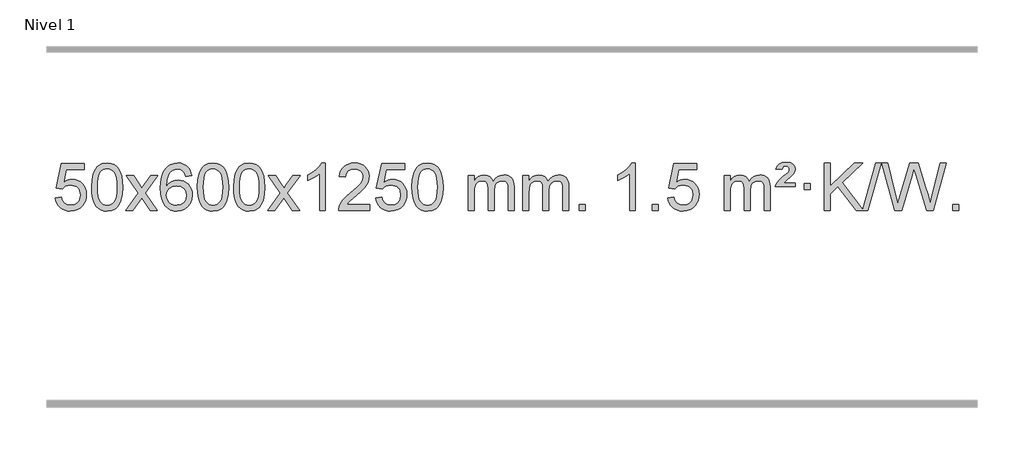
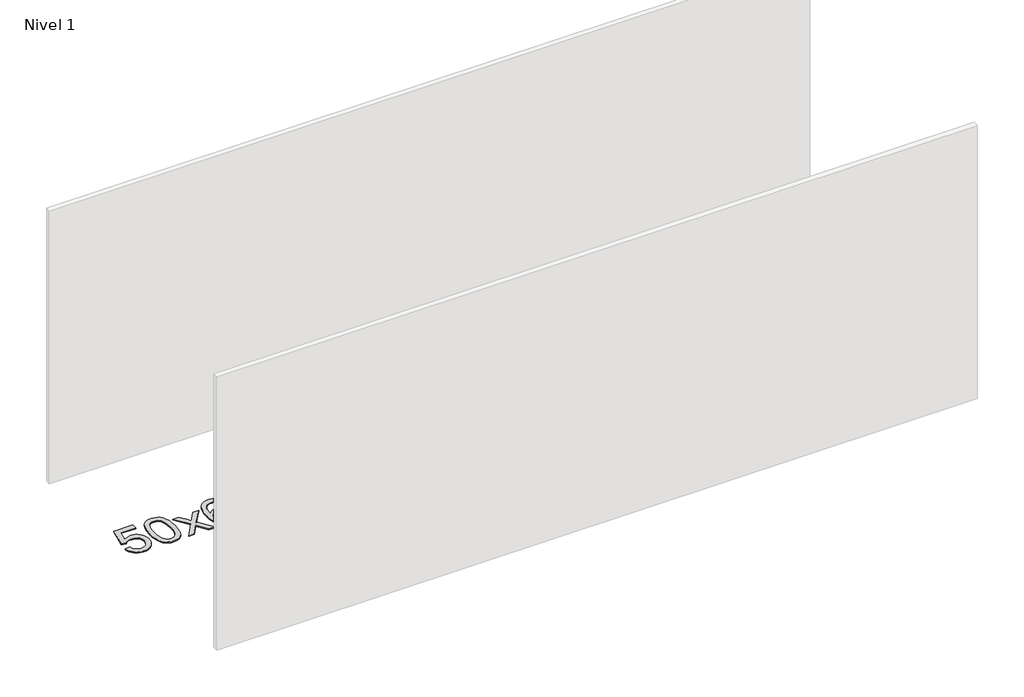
# One storey, part 7 of 8: 1 proxy.
"""IFC4 building model written with IfcOpenShell, lengths in millimetres."""

import ifcopenshell
import ifcopenshell.guid

model = None  # the IFC model being written
_history = None  # IfcOwnerHistory: only IFC2X3 demands one
_inside = {}  # id of a spatial element -> (the spatial element, [elements in it])
_under = {}  # id of a project, library or spatial element -> (it, [spatial elements below it])
_declared = {}  # id of a project -> (the project, [libraries it declares])
_typed = {}  # id of a type object -> (the type object, [elements of that type])
_made_of = {}  # id of a material, layer set ... -> (it, [elements and type objects made of it])


def new_model(schema):
    """Start an empty IFC model of exactly this schema.

    Asked for "IFC4X3", IfcOpenShell would pick the latest addendum, in which some entities
    have other attributes; the version numbers below select the first issue.
    IFC2X3 requires an IfcOwnerHistory on every rooted entity: one is made here for all.
    """
    global model, _history
    if schema == "IFC4X3":
        model = ifcopenshell.file(schema_version=(4, 3, 0, 0))
    else:
        model = ifcopenshell.file(schema=schema)
    _inside.clear()
    _under.clear()
    _declared.clear()
    _typed.clear()
    _made_of.clear()
    _history = None
    if model.schema == "IFC2X3":
        org = make("IfcOrganization", Name="unknown")
        user = make(
            "IfcPersonAndOrganization",
            ThePerson=make("IfcPerson", FamilyName="unknown"),
            TheOrganization=org,
        )
        app = make(
            "IfcApplication",
            ApplicationDeveloper=org,
            Version="unknown",
            ApplicationFullName="unknown",
            ApplicationIdentifier="unknown",
        )
        _history = make(
            "IfcOwnerHistory",
            OwningUser=user,
            OwningApplication=app,
            ChangeAction="ADDED",
            CreationDate=0,
        )
    return model


def make(cls, **values):
    """One entity of the class cls with the attributes given. An attribute that is None is left unset."""
    return model.create_entity(
        cls, **{name: value for name, value in values.items() if value is not None}
    )


def rooted(cls, **values):
    """An entity with a GlobalId (a new one), such as an element, a storey or a relation."""
    return make(cls, GlobalId=ifcopenshell.guid.new(), OwnerHistory=_history, **values)


def si_unit(unit_type, name, prefix=None):
    """IfcSIUnit, for example si_unit("LENGTHUNIT", "METRE", prefix="MILLI")."""
    return make("IfcSIUnit", UnitType=unit_type, Prefix=prefix, Name=name)


def assignment(units):
    """IfcUnitAssignment: the units of a project."""
    return None if units is None else make("IfcUnitAssignment", Units=units)


def point(xyz):
    """IfcCartesianPoint."""
    return None if xyz is None else make("IfcCartesianPoint", Coordinates=xyz)


def direction(xyz):
    """IfcDirection."""
    return None if xyz is None else make("IfcDirection", DirectionRatios=xyz)


def frame(location, z_axis=None, x_axis=None):
    """IfcAxis2Placement3D, a coordinate frame: its origin and axes. An axis left out is left unset."""
    return make(
        "IfcAxis2Placement3D",
        Location=point(location),
        Axis=direction(z_axis),
        RefDirection=direction(x_axis),
    )


def origin():
    """The frame at (0, 0, 0) with its axes left unset."""
    return frame((0.0, 0.0, 0.0))


def origin_with_axes():
    """The frame at (0, 0, 0) with the z axis (0, 0, 1) and the x axis (1, 0, 0) written out."""
    return frame((0.0, 0.0, 0.0), z_axis=(0.0, 0.0, 1.0), x_axis=(1.0, 0.0, 0.0))


def place(relative_to, where):
    """IfcLocalPlacement: puts the frame where relative to a parent placement (None: the world)."""
    return make(
        "IfcLocalPlacement", PlacementRelTo=relative_to, RelativePlacement=where
    )


def context(
    kind, dimensions, precision=None, world=None, true_north=None, identifier=None
):
    """IfcGeometricRepresentationContext, for example the 3D "Model" context."""
    return make(
        "IfcGeometricRepresentationContext",
        ContextIdentifier=identifier,
        ContextType=kind,
        CoordinateSpaceDimension=dimensions,
        Precision=precision,
        WorldCoordinateSystem=world,
        TrueNorth=true_north,
    )


def project(units=None, contexts=None):
    """IfcProject with its units and contexts."""
    return rooted(
        "IfcProject",
        Name="project",
        RepresentationContexts=contexts,
        UnitsInContext=assignment(units),
    )


def spatial(cls, under=None, at=None, **own):
    """A site, building, storey or space (cls), placed at a placement, below another one or the project."""
    s = rooted(cls, ObjectPlacement=at, **own)
    if under is not None:
        _under.setdefault(under.id(), (under, []))[1].append(s)
    return s


def polyline(points):
    """IfcPolyline through the points."""
    return make("IfcPolyline", Points=[point(p) for p in points])


def outline(outer, holes=None, kind="AREA"):
    """IfcArbitraryClosedProfileDef: a profile drawn as a closed curve; with holes, ...WithVoids."""
    if holes is None:
        return make("IfcArbitraryClosedProfileDef", ProfileType=kind, OuterCurve=outer)
    return make(
        "IfcArbitraryProfileDefWithVoids",
        ProfileType=kind,
        OuterCurve=outer,
        InnerCurves=holes,
    )


def extrude(swept, where, along, depth):
    """IfcExtrudedAreaSolid: the profile swept, set in the frame where, extruded along a direction by depth."""
    return make(
        "IfcExtrudedAreaSolid",
        SweptArea=swept,
        Position=where,
        ExtrudedDirection=direction(along),
        Depth=depth,
    )


def shape(context_of_items, identifier, shape_type, items):
    """IfcShapeRepresentation: the items that make up one representation, for example the "Body"."""
    return make(
        "IfcShapeRepresentation",
        ContextOfItems=context_of_items,
        RepresentationIdentifier=identifier,
        RepresentationType=shape_type,
        Items=items,
    )


def made_of(thing, what):
    """Note that an element or type object is made of a material, layer set ...; save() writes the relation."""
    if what is not None:
        _made_of.setdefault(what.id(), (what, []))[1].append(thing)
    return thing


def element(
    cls,
    number,
    at=None,
    inside=None,
    cuts=None,
    type_object=None,
    material=None,
    context=None,
    identifier="Body",
    shape_type=None,
    held_by="IfcProductDefinitionShape",
    body=None,
    shapes=None,
    **own,
):
    """One element of the class cls, such as IfcWall. Its Tag is "e" and its number.

    at: its placement. inside: the storey or other place that contains it. cuts: it is an
    opening in that element (IfcRelVoidsElement). A single representation is given by context,
    identifier, shape_type and body (its items); several are given by shapes. held_by: the class
    of the entity that holds the representations. save() writes the other relations.
    """
    e = rooted(cls, Tag="e%d" % number, ObjectPlacement=at, **own)
    if body is not None:
        shapes = [shape(context, identifier, shape_type, body)]
    if shapes is not None:
        e.Representation = make(held_by, Representations=shapes)
    if inside is not None:
        _inside.setdefault(inside.id(), (inside, []))[1].append(e)
    if cuts is not None:
        rooted(
            "IfcRelVoidsElement", RelatingBuildingElement=cuts, RelatedOpeningElement=e
        )
    if type_object is not None:
        _typed.setdefault(type_object.id(), (type_object, []))[1].append(e)
    return made_of(e, material)


def aggregate(whole, parts):
    """IfcRelAggregates: a whole, such as a stair, and the parts it consists of."""
    return rooted("IfcRelAggregates", RelatingObject=whole, RelatedObjects=parts)


def save(model, path):
    """Write the relations noted so far, then the file.

    IfcRelAggregates (storeys below a building ...), IfcRelContainedInSpatialStructure (elements
    in a storey), IfcRelDefinesByType, IfcRelAssociatesMaterial and IfcRelDeclares: one each for
    every whole, place, type object, material and project.
    """
    for whole, parts in _under.values():
        aggregate(whole, parts)
    for where, things in _inside.values():
        rooted(
            "IfcRelContainedInSpatialStructure",
            RelatedElements=things,
            RelatingStructure=where,
        )
    for kind, things in _typed.values():
        rooted("IfcRelDefinesByType", RelatedObjects=things, RelatingType=kind)
    for what, things in _made_of.values():
        rooted("IfcRelAssociatesMaterial", RelatedObjects=things, RelatingMaterial=what)
    for by, libraries in _declared.values():
        rooted("IfcRelDeclares", RelatingContext=by, RelatedDefinitions=libraries)
    model.write(path)


model = new_model("IFC4")

# Units and contexts
model_context = context("Model", 3, world=origin())
ifc_project = project(units=[si_unit("LENGTHUNIT", "METRE", prefix="MILLI")], contexts=[model_context])

# Site, building, storey
site = spatial("IfcSite", under=ifc_project)
building = spatial("IfcBuilding", under=site)
storey = spatial("IfcBuildingStorey", under=building, Name="Nivel 1", Elevation=0.0)

# Proxy
placement = place(None, origin())
element("IfcBuildingElementProxy", 1, Name="Texto de modelo 1", ObjectType="Texto de modelo 1", at=placement, inside=storey, context=model_context, shape_type="SweptSolid", body=[
    extrude(outline(polyline([(-6456.1697105, -284.8446235), (-6405.9415554, -278.5661041), (-6396.71998, -308.7201649), (-6380.6312741, -330.3148381), (-6357.749014, -343.3010725), (-6328.1467761, -347.6298173), (-6309.0169124, -346.1245668), (-6292.1433915, -341.6088153), (-6277.5262136, -334.0825628), (-6265.1653786, -323.5458094), (-6255.3367979, -310.519721), (-6248.3163832, -295.5254641), (-6242.7000514, -259.6324441), (-6247.9607639, -225.8363514), (-6254.5366546, -211.9181493), (-6263.7429015, -199.9865099), (-6275.6101615, -190.4154467), (-6290.1690915, -183.5789729), (-6327.3619612, -178.1097939), (-6351.728012, -180.2925604), (-6371.4587497, -186.8408599), (-6387.2163618, -196.8717757), (-6399.663036, -209.5023908), (-6449.8911911, -203.2238715), (-6405.9415554, 3.9672682), (-6211.3074545, 3.9672682), (-6211.3074545, -46.2608869), (-6365.3273831, -46.2608869), (-6386.8116916, -156.919791), (-6369.0859108, -144.2155994), (-6350.9309344, -135.1411769), (-6332.3467623, -129.6965234), (-6313.3333945, -127.8816388), (-6288.8723075, -130.1318504), (-6266.4039146, -136.882485), (-6245.9282159, -148.1335427), (-6227.4452113, -163.8850234), (-6212.144386, -183.1743027), (-6201.2152251, -205.038756), (-6194.6577285, -229.4783832), (-6192.4718963, -256.4931844), (-6194.440065, -282.5147042), (-6200.344571, -306.7213394), (-6210.1854144, -329.1130902), (-6223.9625951, -349.6899565), (-6244.833767, -370.7634634), (-6269.187555, -385.8159684), (-6297.0239593, -394.8474714), (-6328.3429799, -397.8579724), (-6354.2633321, -395.9235262), (-6377.6759554, -390.1201877), (-6398.5808498, -380.447957), (-6416.9780152, -366.9068338), (-6432.2849719, -350.1712688), (-6443.91924, -330.915712), (-6451.8808195, -309.1401636), (-6456.1697105, -284.8446235)])), origin_with_axes(), (0.0, 0.0, 1.0), 10.0),
    extrude(outline(polyline([(-6148.5222606, -193.9041943), (-6144.8311779, -129.5861588), (-6133.7579299, -78.2911459), (-6115.4128811, -39.2343407), (-6103.5548181, -24.0009605), (-6089.9063961, -11.6309284), (-6074.4216298, -2.0598651), (-6057.0545339, 4.7766086), (-6016.6733536, 10.2457876), (-5985.722215, 7.008426), (-5958.0084381, -2.7036586), (-5934.8318724, -18.5103217), (-5917.4923677, -40.0314184), (-5904.3957686, -67.0830078), (-5893.94792, -99.4811488), (-5887.1053149, -140.6226186), (-5884.8244465, -193.9041943), (-5888.478741, -257.8543477), (-5899.4416244, -309.0267333), (-5917.6763087, -348.1203266), (-5929.5067805, -363.3996922), (-5943.1460055, -375.8341036), (-5958.6491659, -385.4695462), (-5976.071444, -392.3520052), (-6016.6733536, -397.8579724), (-6044.3380796, -395.4667394), (-6068.8635459, -388.2930405), (-6090.2497526, -376.3368757), (-6108.4966996, -359.5982449), (-6126.0078825, -329.3399508), (-6138.5158704, -291.6381776), (-6146.0206631, -246.4929255), (-6148.5222606, -193.9041943)]), holes=[polyline([(-6098.2941056, -193.8060924), (-6096.8225776, -237.4706195), (-6092.4079936, -272.8148822), (-6085.0503537, -299.8388804), (-6074.7496579, -318.5426142), (-6062.290721, -331.2682656), (-6048.4583579, -340.3580165), (-6033.2525688, -345.8118671), (-6016.6733536, -347.6298173), (-6000.0941383, -345.8057357), (-5984.8883492, -340.3334911), (-5971.0559862, -331.2130833), (-5958.5970493, -318.4445124), (-5948.2963534, -299.7101217), (-5940.9387135, -272.6922549), (-5936.5241295, -237.3909118), (-5935.0526016, -193.8060924), (-5936.4750786, -151.2973278), (-5940.7425098, -116.5753989), (-5947.854895, -89.6403055), (-5957.8122343, -70.4920476), (-5970.0627048, -57.1440625), (-5984.0544833, -47.6097875), (-5999.78757, -41.8892225), (-6017.2619648, -39.9823675), (-6033.7553409, -41.6623619), (-6048.7036126, -46.7023452), (-6062.10678, -55.1023175), (-6073.9648429, -66.8622786), (-6084.6088953, -87.708925), (-6092.2117899, -115.8151094), (-6096.7735266, -151.1808319), (-6098.2941056, -193.8060924)])]), origin_with_axes(), (0.0, 0.0, 1.0), 10.0),
    extrude(outline(polyline([(-5859.7103689, -391.579453), (-5752.3869282, -243.2494325), (-5853.4318496, -96.4890419), (-5793.0011005, -96.4890419), (-5744.2444734, -167.122385), (-5721.4848406, -200.4770192), (-5701.7663657, -173.2047007), (-5646.2407099, -96.4890419), (-5585.8099608, -96.4890419), (-5691.9561791, -243.2494325), (-5589.7340354, -391.579453), (-5650.1647845, -391.579453), (-5711.6746541, -302.4048574), (-5722.9563686, -286.1199477), (-5799.2796199, -391.579453), (-5859.7103689, -391.579453)])), origin_with_axes(), (0.0, 0.0, 1.0), 10.0),
    extrude(outline(polyline([(-5300.9221437, -96.4890419), (-5351.1502988, -102.7675613), (-5359.2437027, -77.874213), (-5370.1820607, -60.8780648), (-5392.9662189, -45.2062918), (-5420.5083176, -39.9823675), (-5443.8565616, -43.0235253), (-5465.8313794, -52.1469988), (-5484.7037258, -71.3627017), (-5500.1179814, -97.8134171), (-5510.5290419, -135.227016), (-5514.3918028, -187.3313693), (-5494.2441322, -163.8237098), (-5470.0988106, -147.2567573), (-5443.3047386, -137.434308), (-5415.2108169, -134.1601582), (-5391.077758, -136.398107), (-5368.8086346, -143.1119534), (-5348.4034466, -154.3016975), (-5329.862194, -169.9673391), (-5314.4540698, -189.1769106), (-5303.4482668, -210.9984443), (-5296.844785, -235.4319401), (-5294.6436244, -262.4773982), (-5298.7884282, -298.4439945), (-5311.2228396, -331.786366), (-5330.9167891, -360.0642287), (-5356.840207, -380.8372987), (-5387.815871, -393.602804), (-5422.6665587, -397.8579724), (-5452.6090874, -395.0375437), (-5479.6514797, -386.5762579), (-5503.7937357, -372.4741147), (-5525.0358552, -352.7311143), (-5542.3539001, -326.5133908), (-5554.7239322, -292.9870783), (-5562.1459515, -252.1521768), (-5564.6199579, -204.0086864), (-5561.8731057, -150.0342663), (-5553.632549, -103.9693092), (-5539.8982878, -65.8138149), (-5520.6703222, -35.5677835), (-5499.8298072, -15.5243462), (-5475.6660915, -1.2076052), (-5448.179175, 7.3824394), (-5417.3690579, 10.2457876), (-5394.2354118, 8.4738227), (-5373.2967949, 3.1579278), (-5354.5532073, -5.7018969), (-5338.0046489, -18.1056515), (-5324.0987094, -33.6364031), (-5313.2829788, -51.8772186), (-5305.5574569, -72.8280983), (-5300.9221437, -96.4890419)]), holes=[polyline([(-5514.3918028, -261.6925832), (-5511.485535, -283.9494439), (-5502.7667318, -305.2007605), (-5489.2286743, -323.472233), (-5471.8646442, -336.7895612), (-5450.9076332, -344.9197533), (-5426.5906333, -347.6298173), (-5393.4444655, -342.0134855), (-5379.5293291, -334.9930708), (-5367.3861575, -325.1644901), (-5357.5361171, -312.9262824), (-5350.500374, -298.6769865), (-5344.8717794, -264.1451299), (-5350.4267976, -230.9989621), (-5357.3705702, -217.3781312), (-5367.0918519, -205.725469), (-5379.2718117, -196.3904634), (-5393.5916183, -189.7226022), (-5428.6507725, -184.3883133), (-5461.7478893, -189.7226022), (-5489.4248781, -205.725469), (-5500.3479076, -217.2248471), (-5508.1500716, -230.3858254), (-5512.83137, -245.2084042), (-5514.3918028, -261.6925832)])]), origin_with_axes(), (0.0, 0.0, 1.0), 10.0),
    extrude(outline(polyline([(-5250.6939887, -193.9041943), (-5247.002906, -129.5861588), (-5235.9296579, -78.2911459), (-5217.5846091, -39.2343407), (-5205.7265461, -24.0009605), (-5192.0781241, -11.6309284), (-5176.5933578, -2.0598651), (-5159.2262619, 4.7766086), (-5118.8450816, 10.2457876), (-5087.8939431, 7.008426), (-5060.1801661, -2.7036586), (-5037.0036004, -18.5103217), (-5019.6640957, -40.0314184), (-5006.5674967, -67.0830078), (-4996.119648, -99.4811488), (-4989.2770429, -140.6226186), (-4986.9961745, -193.9041943), (-4990.650469, -257.8543477), (-5001.6133525, -309.0267333), (-5019.8480367, -348.1203266), (-5031.6785085, -363.3996922), (-5045.3177335, -375.8341036), (-5060.8208939, -385.4695462), (-5078.2431721, -392.3520052), (-5118.8450816, -397.8579724), (-5146.5098076, -395.4667394), (-5171.035274, -388.2930405), (-5192.4214806, -376.3368757), (-5210.6684276, -359.5982449), (-5228.1796106, -329.3399508), (-5240.6875984, -291.6381776), (-5248.1923911, -246.4929255), (-5250.6939887, -193.9041943)]), holes=[polyline([(-5200.4658336, -193.8060924), (-5198.9943056, -237.4706195), (-5194.5797217, -272.8148822), (-5187.2220818, -299.8388804), (-5176.9213859, -318.5426142), (-5164.462449, -331.2682656), (-5150.630086, -340.3580165), (-5135.4242968, -345.8118671), (-5118.8450816, -347.6298173), (-5102.2658663, -345.8057357), (-5087.0600772, -340.3334911), (-5073.2277142, -331.2130833), (-5060.7687773, -318.4445124), (-5050.4680814, -299.7101217), (-5043.1104415, -272.6922549), (-5038.6958576, -237.3909118), (-5037.2243296, -193.8060924), (-5038.6468066, -151.2973278), (-5042.9142378, -116.5753989), (-5050.026623, -89.6403055), (-5059.9839624, -70.4920476), (-5072.2344328, -57.1440625), (-5086.2262114, -47.6097875), (-5101.959298, -41.8892225), (-5119.4336928, -39.9823675), (-5135.9270689, -41.6623619), (-5150.8753406, -46.7023452), (-5164.278508, -55.1023175), (-5176.136571, -66.8622786), (-5186.7806234, -87.708925), (-5194.3835179, -115.8151094), (-5198.9452547, -151.1808319), (-5200.4658336, -193.8060924)])]), origin_with_axes(), (0.0, 0.0, 1.0), 10.0),
    extrude(outline(polyline([(-4943.0465388, -193.9041943), (-4939.3554561, -129.5861588), (-4928.2822081, -78.2911459), (-4909.9371593, -39.2343407), (-4898.0790963, -24.0009605), (-4884.4306743, -11.6309284), (-4868.945908, -2.0598651), (-4851.5788121, 4.7766086), (-4811.1976318, 10.2457876), (-4780.2464932, 7.008426), (-4752.5327163, -2.7036586), (-4729.3561506, -18.5103217), (-4712.0166459, -40.0314184), (-4698.9200468, -67.0830078), (-4688.4721982, -99.4811488), (-4681.6295931, -140.6226186), (-4679.3487247, -193.9041943), (-4683.0030192, -257.8543477), (-4693.9659026, -309.0267333), (-4712.2005869, -348.1203266), (-4724.0310587, -363.3996922), (-4737.6702837, -375.8341036), (-4753.1734441, -385.4695462), (-4770.5957222, -392.3520052), (-4811.1976318, -397.8579724), (-4838.8623578, -395.4667394), (-4863.3878241, -388.2930405), (-4884.7740308, -376.3368757), (-4903.0209778, -359.5982449), (-4920.5321607, -329.3399508), (-4933.0401486, -291.6381776), (-4940.5449413, -246.4929255), (-4943.0465388, -193.9041943)]), holes=[polyline([(-4892.8183838, -193.8060924), (-4891.3468558, -237.4706195), (-4886.9322718, -272.8148822), (-4879.5746319, -299.8388804), (-4869.2739361, -318.5426142), (-4856.8149992, -331.2682656), (-4842.9826361, -340.3580165), (-4827.776847, -345.8118671), (-4811.1976318, -347.6298173), (-4794.6184165, -345.8057357), (-4779.4126274, -340.3334911), (-4765.5802644, -331.2130833), (-4753.1213275, -318.4445124), (-4742.8206316, -299.7101217), (-4735.4629917, -272.6922549), (-4731.0484077, -237.3909118), (-4729.5768798, -193.8060924), (-4730.9993568, -151.2973278), (-4735.266788, -116.5753989), (-4742.3791732, -89.6403055), (-4752.3365125, -70.4920476), (-4764.586983, -57.1440625), (-4778.5787615, -47.6097875), (-4794.3118482, -41.8892225), (-4811.786243, -39.9823675), (-4828.2796191, -41.6623619), (-4843.2278908, -46.7023452), (-4856.6310582, -55.1023175), (-4868.4891211, -66.8622786), (-4879.1331735, -87.708925), (-4886.7360681, -115.8151094), (-4891.2978048, -151.1808319), (-4892.8183838, -193.8060924)])]), origin_with_axes(), (0.0, 0.0, 1.0), 10.0),
    extrude(outline(polyline([(-4654.2346472, -391.579453), (-4546.9112064, -243.2494325), (-4647.9561278, -96.4890419), (-4587.5253787, -96.4890419), (-4538.7687516, -167.122385), (-4516.0091188, -200.4770192), (-4496.2906439, -173.2047007), (-4440.7649881, -96.4890419), (-4380.334239, -96.4890419), (-4486.4804574, -243.2494325), (-4384.2583136, -391.579453), (-4444.6890627, -391.579453), (-4506.1989323, -302.4048574), (-4517.4806468, -286.1199477), (-4593.8038981, -391.579453), (-4654.2346472, -391.579453)])), origin_with_axes(), (0.0, 0.0, 1.0), 10.0),
    extrude(outline(polyline([(-4164.5101352, -391.579453), (-4214.7382902, -391.579453), (-4214.7382902, -78.4382987), (-4235.707564, -95.3976587), (-4262.317695, -112.3324932), (-4315.1946004, -137.6918254), (-4315.1946004, -90.2105225), (-4275.7453878, -68.7507395), (-4241.5691504, -43.219729), (-4214.6279257, -16.0700378), (-4196.8837508, 10.2457876), (-4164.5101352, 10.2457876), (-4164.5101352, -391.579453)])), origin_with_axes(), (0.0, 0.0, 1.0), 10.0),
    extrude(outline(polyline([(-3787.7989721, -341.3512979), (-3787.7989721, -391.579453), (-4051.4967863, -391.579453), (-4050.3931403, -373.8965918), (-4046.1011837, -356.9494945), (-4033.7158232, -329.8856424), (-4015.5915035, -303.6311307), (-3989.37378, -276.1503456), (-3952.7082078, -245.4076736), (-3898.5069272, -197.2641831), (-3865.9861588, -161.7267824), (-3849.7257746, -132.884834), (-3844.3056466, -104.8277005), (-3849.4192063, -79.6768347), (-3864.7598855, -58.7688747), (-3888.3411214, -44.6789943), (-3918.1763512, -39.9823675), (-3949.5076345, -44.5686297), (-3973.8491598, -58.3274163), (-3989.557721, -80.1796068), (-3994.9901118, -109.0460807), (-4045.2182669, -102.7675613), (-4040.8987191, -76.838012), (-4033.0413728, -54.1826125), (-4021.646228, -34.8013627), (-4006.7132847, -18.6942627), (-3988.5858994, -6.0329907), (-3967.6074286, 3.010775), (-3943.7778724, 8.4370345), (-3917.0972307, 10.2457876), (-3890.1774657, 8.2346994), (-3866.2191508, 2.2014346), (-3845.2222859, -7.8540066), (-3827.1868711, -21.9316242), (-3812.7015175, -38.9890861), (-3802.3548364, -57.9840598), (-3796.1468277, -78.9165453), (-3794.0774915, -101.7865427), (-3796.3093089, -125.8092369), (-3803.0047612, -149.4149983), (-3814.8873497, -173.4254299), (-3832.6805755, -198.6621347), (-3861.0442774, -228.7916701), (-3904.6382938, -267.4805933), (-3962.4202925, -315.795762), (-3985.0818234, -341.3512979), (-3787.7989721, -341.3512979)])), origin_with_axes(), (0.0, 0.0, 1.0), 10.0),
    extrude(outline(polyline([(-3737.570817, -284.8446235), (-3687.342662, -278.5661041), (-3678.1210866, -308.7201649), (-3662.0323807, -330.3148381), (-3639.1501206, -343.3010725), (-3609.5478827, -347.6298173), (-3590.418019, -346.1245668), (-3573.5444981, -341.6088153), (-3558.9273202, -334.0825628), (-3546.5664851, -323.5458094), (-3536.7379045, -310.519721), (-3529.7174898, -295.5254641), (-3524.101158, -259.6324441), (-3529.3618705, -225.8363514), (-3535.9377612, -211.9181493), (-3545.1440081, -199.9865099), (-3557.0112681, -190.4154467), (-3571.5701981, -183.5789729), (-3608.7630678, -178.1097939), (-3633.1291186, -180.2925604), (-3652.8598563, -186.8408599), (-3668.6174684, -196.8717757), (-3681.0641426, -209.5023908), (-3731.2922977, -203.2238715), (-3687.342662, 3.9672682), (-3492.708561, 3.9672682), (-3492.708561, -46.2608869), (-3646.7284897, -46.2608869), (-3668.2127982, -156.919791), (-3650.4870174, -144.2155994), (-3632.332041, -135.1411769), (-3613.7478688, -129.6965234), (-3594.734501, -127.8816388), (-3570.273414, -130.1318504), (-3547.8050212, -136.882485), (-3527.3293225, -148.1335427), (-3508.8463179, -163.8850234), (-3493.5454926, -183.1743027), (-3482.6163316, -205.038756), (-3476.0588351, -229.4783832), (-3473.8730029, -256.4931844), (-3475.8411716, -282.5147042), (-3481.7456776, -306.7213394), (-3491.586521, -329.1130902), (-3505.3637017, -349.6899565), (-3526.2348735, -370.7634634), (-3550.5886616, -385.8159684), (-3578.4250659, -394.8474714), (-3609.7440864, -397.8579724), (-3635.6644387, -395.9235262), (-3659.077062, -390.1201877), (-3679.9819564, -380.447957), (-3698.3791218, -366.9068338), (-3713.6860785, -350.1712688), (-3725.3203466, -330.915712), (-3733.2819261, -309.1401636), (-3737.570817, -284.8446235)])), origin_with_axes(), (0.0, 0.0, 1.0), 10.0),
    extrude(outline(polyline([(-3429.9233672, -193.9041943), (-3426.2322845, -129.5861588), (-3415.1590365, -78.2911459), (-3396.8139876, -39.2343407), (-3384.9559247, -24.0009605), (-3371.3075026, -11.6309284), (-3355.8227363, -2.0598651), (-3338.4556405, 4.7766086), (-3298.0744601, 10.2457876), (-3267.1233216, 7.008426), (-3239.4095446, -2.7036586), (-3216.2329789, -18.5103217), (-3198.8934742, -40.0314184), (-3185.7968752, -67.0830078), (-3175.3490265, -99.4811488), (-3168.5064214, -140.6226186), (-3166.2255531, -193.9041943), (-3169.8798475, -257.8543477), (-3180.842731, -309.0267333), (-3199.0774152, -348.1203266), (-3210.9078871, -363.3996922), (-3224.547112, -375.8341036), (-3240.0502724, -385.4695462), (-3257.4725506, -392.3520052), (-3298.0744601, -397.8579724), (-3325.7391862, -395.4667394), (-3350.2646525, -388.2930405), (-3371.6508592, -376.3368757), (-3389.8978061, -359.5982449), (-3407.4089891, -329.3399508), (-3419.9169769, -291.6381776), (-3427.4217696, -246.4929255), (-3429.9233672, -193.9041943)]), holes=[polyline([(-3379.6952121, -193.8060924), (-3378.2236842, -237.4706195), (-3373.8091002, -272.8148822), (-3366.4514603, -299.8388804), (-3356.1507644, -318.5426142), (-3343.6918275, -331.2682656), (-3329.8594645, -340.3580165), (-3314.6536754, -345.8118671), (-3298.0744601, -347.6298173), (-3281.4952449, -345.8057357), (-3266.2894558, -340.3334911), (-3252.4570927, -331.2130833), (-3239.9981558, -318.4445124), (-3229.69746, -299.7101217), (-3222.3398201, -272.6922549), (-3217.9252361, -237.3909118), (-3216.4537081, -193.8060924), (-3217.8761852, -151.2973278), (-3222.1436163, -116.5753989), (-3229.2560016, -89.6403055), (-3239.2133409, -70.4920476), (-3251.4638113, -57.1440625), (-3265.4555899, -47.6097875), (-3281.1886766, -41.8892225), (-3298.6630713, -39.9823675), (-3315.1564474, -41.6623619), (-3330.1047192, -46.7023452), (-3343.5078865, -55.1023175), (-3355.3659495, -66.8622786), (-3366.0100019, -87.708925), (-3373.6128965, -115.8151094), (-3378.1746332, -151.1808319), (-3379.6952121, -193.8060924)])]), origin_with_axes(), (0.0, 0.0, 1.0), 10.0),
    extrude(outline(polyline([(-2952.755894, -391.579453), (-2952.755894, -96.4890419), (-2902.5277389, -96.4890419), (-2902.5277389, -145.0494653), (-2887.4200517, -122.7435537), (-2867.9958823, -105.2691589), (-2844.9174185, -93.9751816), (-2818.8468478, -90.2105225), (-2790.9123416, -94.048758), (-2768.5205908, -105.5634645), (-2751.7942228, -123.9943524), (-2740.8558648, -148.5811324), (-2722.5476041, -123.0439906), (-2701.6641696, -104.803175), (-2678.205561, -93.8586857), (-2652.1717785, -90.2105225), (-2632.0639617, -91.7280358), (-2614.414823, -96.2805755), (-2599.2243623, -103.8681416), (-2586.4925796, -114.4907342), (-2576.4279413, -128.2709806), (-2569.238914, -145.3315082), (-2564.9254976, -165.6723168), (-2563.4876922, -189.2934066), (-2563.4876922, -391.579453), (-2613.7158472, -391.579453), (-2613.7158472, -210.875817), (-2614.8808069, -185.8230531), (-2618.3756858, -168.9372695), (-2624.9239854, -157.3735121), (-2635.2492067, -148.2868268), (-2648.5297467, -142.4007149), (-2663.9440023, -140.4386776), (-2691.1550072, -145.4663982), (-2713.3382915, -160.54956), (-2721.9436645, -172.1194488), (-2728.0903595, -186.7182326), (-2733.0077155, -225.0024856), (-2733.0077155, -391.579453), (-2783.2358706, -391.579453), (-2783.2358706, -205.2840106), (-2786.1421384, -176.8835206), (-2794.8609417, -156.6254854), (-2810.2016209, -144.4853796), (-2832.9735164, -140.4386776), (-2852.3241093, -143.1364789), (-2870.1541233, -151.2298828), (-2884.8694032, -164.5226856), (-2894.8757934, -182.8186835), (-2900.6147525, -208.2025411), (-2902.5277389, -242.7589232), (-2902.5277389, -391.579453), (-2952.755894, -391.579453)])), origin_with_axes(), (0.0, 0.0, 1.0), 10.0),
    extrude(outline(polyline([(-2488.1454596, -391.579453), (-2488.1454596, -96.4890419), (-2437.9173045, -96.4890419), (-2437.9173045, -145.0494653), (-2422.8096172, -122.7435537), (-2403.3854479, -105.2691589), (-2380.306984, -93.9751816), (-2354.2364133, -90.2105225), (-2326.3019071, -94.048758), (-2303.9101564, -105.5634645), (-2287.1837883, -123.9943524), (-2276.2454303, -148.5811324), (-2257.9371697, -123.0439906), (-2237.0537351, -104.803175), (-2213.5951266, -93.8586857), (-2187.561344, -90.2105225), (-2167.4535273, -91.7280358), (-2149.8043886, -96.2805755), (-2134.6139279, -103.8681416), (-2121.8821452, -114.4907342), (-2111.8175069, -128.2709806), (-2104.6284796, -145.3315082), (-2100.3150632, -165.6723168), (-2098.8772577, -189.2934066), (-2098.8772577, -391.579453), (-2149.1054128, -391.579453), (-2149.1054128, -210.875817), (-2150.2703724, -185.8230531), (-2153.7652514, -168.9372695), (-2160.3135509, -157.3735121), (-2170.6387722, -148.2868268), (-2183.9193123, -142.4007149), (-2199.3335679, -140.4386776), (-2226.5445728, -145.4663982), (-2248.7278571, -160.54956), (-2257.3332301, -172.1194488), (-2263.4799251, -186.7182326), (-2268.3972811, -225.0024856), (-2268.3972811, -391.579453), (-2318.6254362, -391.579453), (-2318.6254362, -205.2840106), (-2321.5317039, -176.8835206), (-2330.2505072, -156.6254854), (-2345.5911864, -144.4853796), (-2368.3630819, -140.4386776), (-2387.7136749, -143.1364789), (-2405.5436889, -151.2298828), (-2420.2589687, -164.5226856), (-2430.265359, -182.8186835), (-2436.0043181, -208.2025411), (-2437.9173045, -242.7589232), (-2437.9173045, -391.579453), (-2488.1454596, -391.579453)])), origin_with_axes(), (0.0, 0.0, 1.0), 10.0),
    extrude(outline(polyline([(-2010.9779863, -391.579453), (-2010.9779863, -341.3512979), (-1960.7498313, -341.3512979), (-1960.7498313, -391.579453), (-2010.9779863, -391.579453)])), origin_with_axes(), (0.0, 0.0, 1.0), 10.0),
    extrude(outline(polyline([(-1533.8105131, -391.579453), (-1584.0386682, -391.579453), (-1584.0386682, -78.4382987), (-1605.0079419, -95.3976587), (-1631.6180729, -112.3324932), (-1684.4949784, -137.6918254), (-1684.4949784, -90.2105225), (-1645.0457657, -68.7507395), (-1610.8695284, -43.219729), (-1583.9283036, -16.0700378), (-1566.1841287, 10.2457876), (-1533.8105131, 10.2457876), (-1533.8105131, -391.579453)])), origin_with_axes(), (0.0, 0.0, 1.0), 10.0),
    extrude(outline(polyline([(-1389.4045673, -391.579453), (-1389.4045673, -341.3512979), (-1339.1764122, -341.3512979), (-1339.1764122, -391.579453), (-1389.4045673, -391.579453)])), origin_with_axes(), (0.0, 0.0, 1.0), 10.0),
    extrude(outline(polyline([(-1257.5556602, -284.8446235), (-1207.3275051, -278.5661041), (-1198.1059298, -308.7201649), (-1182.0172239, -330.3148381), (-1159.1349638, -343.3010725), (-1129.5327259, -347.6298173), (-1110.4028621, -346.1245668), (-1093.5293413, -341.6088153), (-1078.9121634, -334.0825628), (-1066.5513283, -323.5458094), (-1056.7227477, -310.519721), (-1049.7023329, -295.5254641), (-1044.0860012, -259.6324441), (-1049.3467137, -225.8363514), (-1055.9226043, -211.9181493), (-1065.1288513, -199.9865099), (-1076.9961113, -190.4154467), (-1091.5550413, -183.5789729), (-1128.747911, -178.1097939), (-1153.1139618, -180.2925604), (-1172.8446995, -186.8408599), (-1188.6023116, -196.8717757), (-1201.0489858, -209.5023908), (-1251.2771408, -203.2238715), (-1207.3275051, 3.9672682), (-1012.6934042, 3.9672682), (-1012.6934042, -46.2608869), (-1166.7133329, -46.2608869), (-1188.1976414, -156.919791), (-1170.4718606, -144.2155994), (-1152.3168841, -135.1411769), (-1133.732712, -129.6965234), (-1114.7193442, -127.8816388), (-1090.2582572, -130.1318504), (-1067.7898644, -136.882485), (-1047.3141657, -148.1335427), (-1028.8311611, -163.8850234), (-1013.5303358, -183.1743027), (-1002.6011748, -205.038756), (-996.0436783, -229.4783832), (-993.8578461, -256.4931844), (-995.8260148, -282.5147042), (-1001.7305208, -306.7213394), (-1011.5713641, -329.1130902), (-1025.3485449, -349.6899565), (-1046.2197167, -370.7634634), (-1070.5735048, -385.8159684), (-1098.4099091, -394.8474714), (-1129.7289296, -397.8579724), (-1155.6492819, -395.9235262), (-1179.0619052, -390.1201877), (-1199.9667996, -380.447957), (-1218.363965, -366.9068338), (-1233.6709217, -350.1712688), (-1245.3051898, -330.915712), (-1253.2667693, -309.1401636), (-1257.5556602, -284.8446235)])), origin_with_axes(), (0.0, 0.0, 1.0), 10.0),
    extrude(outline(polyline([(-780.388187, -391.579453), (-780.388187, -96.4890419), (-730.1600319, -96.4890419), (-730.1600319, -145.0494653), (-715.0523447, -122.7435537), (-695.6281753, -105.2691589), (-672.5497115, -93.9751816), (-646.4791408, -90.2105225), (-618.5446346, -94.048758), (-596.1528838, -105.5634645), (-579.4265158, -123.9943524), (-568.4881578, -148.5811324), (-550.1798972, -123.0439906), (-529.2964626, -104.803175), (-505.837854, -93.8586857), (-479.8040715, -90.2105225), (-459.6962548, -91.7280358), (-442.047116, -96.2805755), (-426.8566553, -103.8681416), (-414.1248726, -114.4907342), (-404.0602344, -128.2709806), (-396.871207, -145.3315082), (-392.5577906, -165.6723168), (-391.1199852, -189.2934066), (-391.1199852, -391.579453), (-441.3481403, -391.579453), (-441.3481403, -210.875817), (-442.5130999, -185.8230531), (-446.0079789, -168.9372695), (-452.5562784, -157.3735121), (-462.8814997, -148.2868268), (-476.1620397, -142.4007149), (-491.5762953, -140.4386776), (-518.7873002, -145.4663982), (-540.9705845, -160.54956), (-549.5759576, -172.1194488), (-555.7226526, -186.7182326), (-560.6400086, -225.0024856), (-560.6400086, -391.579453), (-610.8681636, -391.579453), (-610.8681636, -205.2840106), (-613.7744314, -176.8835206), (-622.4932347, -156.6254854), (-637.8339139, -144.4853796), (-660.6058094, -140.4386776), (-679.9564023, -143.1364789), (-697.7864164, -151.2298828), (-712.5016962, -164.5226856), (-722.5080864, -182.8186835), (-728.2470456, -208.2025411), (-730.1600319, -242.7589232), (-730.1600319, -391.579453), (-780.388187, -391.579453)])), origin_with_axes(), (0.0, 0.0, 1.0), 10.0),
    extrude(outline(polyline([(-347.1703495, -190.6668327), (-343.3443767, -174.8479069), (-335.0057182, -158.9799302), (-313.4968842, -133.8413272), (-281.5402016, -106.1030247), (-237.3943621, -68.726214), (-230.2574514, -57.1992448), (-227.8784812, -45.3779701), (-229.7669421, -33.2869152), (-235.4323248, -23.5012541), (-244.801053, -17.026531), (-257.7995501, -14.8682899), (-270.2339616, -16.4869707), (-279.0876549, -21.343013), (-285.5133271, -30.8098431), (-290.663675, -46.2608869), (-340.8918301, -39.9823675), (-330.051574, -14.7701881), (-313.4233078, 2.7900458), (-289.6581309, 13.0907417), (-257.4071427, 16.524307), (-221.6244873, 12.3917659), (-196.8782917, -0.0058573), (-182.4573175, -18.3386434), (-177.6503261, -40.2766731), (-181.746079, -63.1834586), (-194.0333376, -84.8149199), (-214.561153, -104.6314968), (-251.0305214, -132.6886303), (-276.6351083, -159.2742358), (-177.6503261, -159.2742358), (-177.6503261, -190.6668327), (-347.1703495, -190.6668327)])), origin_with_axes(), (0.0, 0.0, 1.0), 10.0),
    extrude(outline(polyline([(-102.3080935, -215.7809102), (-102.3080935, -165.5527552), (-52.0799384, -165.5527552), (-52.0799384, -215.7809102), (-102.3080935, -215.7809102)])), origin_with_axes(), (0.0, 0.0, 1.0), 10.0),
    extrude(outline(polyline([(338.5616895, -391.579453), (185.1303721, -188.9009991), (117.440085, -253.4520265), (117.440085, -391.579453), (67.2119299, -391.579453), (67.2119299, 10.2457876), (117.440085, 10.2457876), (117.440085, -186.4484525), (323.4540023, 10.2457876), (393.6949379, 10.2457876), (220.7413492, -154.9577537), (395.3949591, -385.5349332), (506.7082868, 10.2457876), (552.0313486, 10.2457876), (439.0179997, -391.579453), (399.9734572, -391.579453), (393.6949379, -391.579453), (338.5616895, -391.579453)])), origin_with_axes(), (0.0, 0.0, 1.0), 10.0),
    extrude(outline(polyline([(666.5162255, -391.579453), (556.9364419, 10.2457876), (608.7342268, 10.2457876), (672.3042355, -253.844434), (691.9246086, -335.3670841), (712.9184078, -263.2622131), (792.5771225, 10.2457876), (867.2326421, 10.2457876), (925.1127426, -188.0180823), (949.9079891, -261.5944814), (968.1794615, -335.3670841), (987.2112234, -256.1988788), (1051.3698434, 10.2457876), (1103.1676283, 10.2457876), (993.4897428, -391.579453), (939.8280224, -391.579453), (843.4919906, -81.5775584), (830.0520351, -38.3146358), (814.9443478, -90.4067263), (727.1431783, -391.579453), (666.5162255, -391.579453)])), origin_with_axes(), (0.0, 0.0, 1.0), 10.0),
    extrude(outline(polyline([(1159.6743028, -391.579453), (1159.6743028, -341.3512979), (1209.9024578, -341.3512979), (1209.9024578, -391.579453), (1159.6743028, -391.579453)])), origin_with_axes(), (0.0, 0.0, 1.0), 10.0),
])

save(model, "model.ifc")
